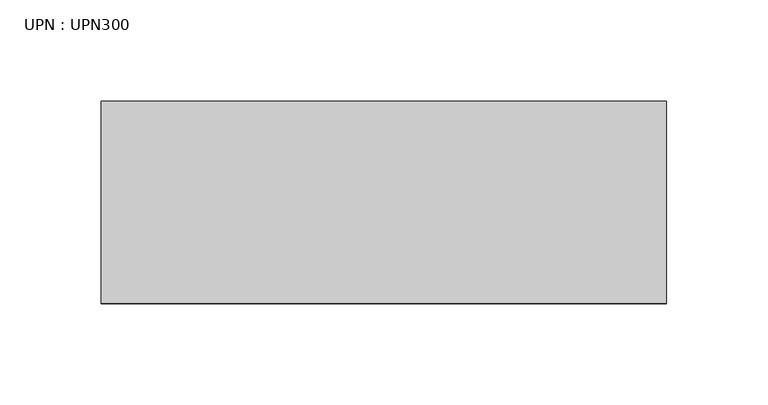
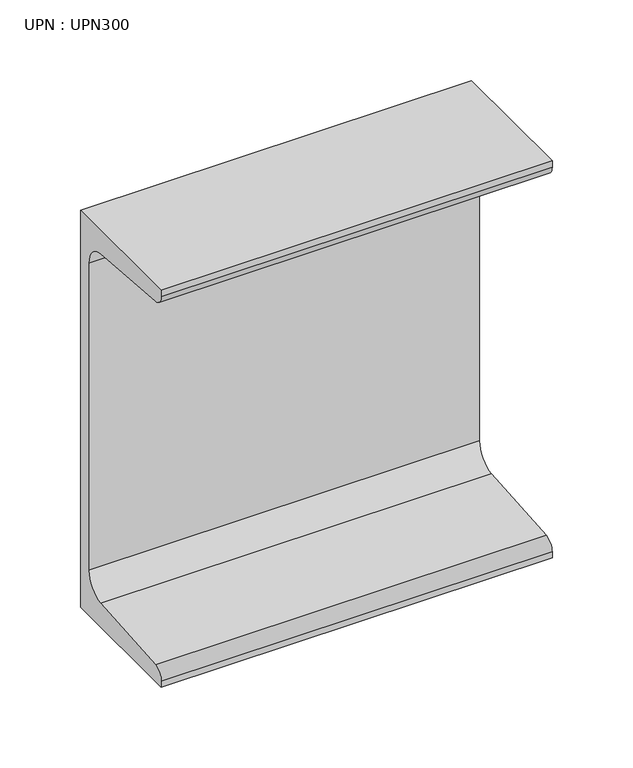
"""IFC4 building model written with IfcOpenShell, lengths in millimetres: beam geometry, UPN : UPN300."""

from ifc_helpers import new_model, si_unit, point, frame, frame_2d, origin, place, context, project, spatial, polyline, circle_curve, trimmed, segment, composite_curve, outline, extrude, source, transform, mapped, element, save


def upn_upn300_6ac99c08(model_context):
    return source(origin(), model_context, "Body", "SweptSolid", [
        extrude(outline(composite_curve([segment(polyline([(27.0, 150.0), (27.0, -150.0), (-73.0, -150.0), (-73.0, -145.3826224)]), True, "CONTINUOUS"), segment(trimmed(circle_curve(frame_2d((-65.0, -145.3826224)), 8.0), [point((-73.0, -145.3826224))], [point((-65.637416, -137.4080566))], False, "CARTESIAN"), True, "CONTINUOUS"), segment(polyline([(-65.637416, -137.4080566), (2.274832, -131.9797543)]), True, "CONTINUOUS"), segment(trimmed(circle_curve(frame_2d((1.0, -116.0306225)), 16.0), [point((2.274832, -131.9797543))], [point((17.0, -116.0306225))], True, "CARTESIAN"), True, "CONTINUOUS"), segment(polyline([(17.0, -116.0306225), (17.0, 116.0306225)]), True, "CONTINUOUS"), segment(trimmed(circle_curve(frame_2d((1.0, 116.0306225)), 16.0), [point((17.0, 116.0306225))], [point((2.274832, 131.9797543))], True, "CARTESIAN"), True, "CONTINUOUS"), segment(polyline([(2.274832, 131.9797543), (-65.637416, 137.4080566)]), True, "CONTINUOUS"), segment(trimmed(circle_curve(frame_2d((-65.0, 145.3826224)), 8.0), [point((-65.637416, 137.4080566))], [point((-73.0, 145.3826224))], False, "CARTESIAN"), True, "CONTINUOUS"), segment(polyline([(-73.0, 145.3826224), (-73.0, 150.0), (27.0, 150.0)]), True, "CONTINUOUS")], self_intersect=False)), frame((-146.35, 0.0, 0.0), z_axis=(1.0, 0.0, 0.0), x_axis=(0.0, 1.0, 0.0)), (0.0, 0.0, 1.0), 279.7),
    ])


if __name__ == "__main__":
    model = new_model("IFC4")
    model_context = context("Model", 3, world=origin())
    ifc_project = project(units=[si_unit("LENGTHUNIT", "METRE", prefix="MILLI")], contexts=[model_context])
    site = spatial("IfcSite", under=ifc_project)
    building = spatial("IfcBuilding", under=site)
    placement = place(None, origin())
    upn_upn300_shape = upn_upn300_6ac99c08(model_context)
    element("IfcBeam", 1, ObjectType="UPN : UPN300", at=placement, inside=building, context=model_context, shape_type="MappedRepresentation", body=[
        mapped(upn_upn300_shape, transform((0.0, 0.0, 0.0), x_axis=(1.0, 0.0, 0.0), y_axis=(0.0, 1.0, 0.0), z_axis=(0.0, 0.0, 1.0))),
    ])
    save(model, "model.ifc")
